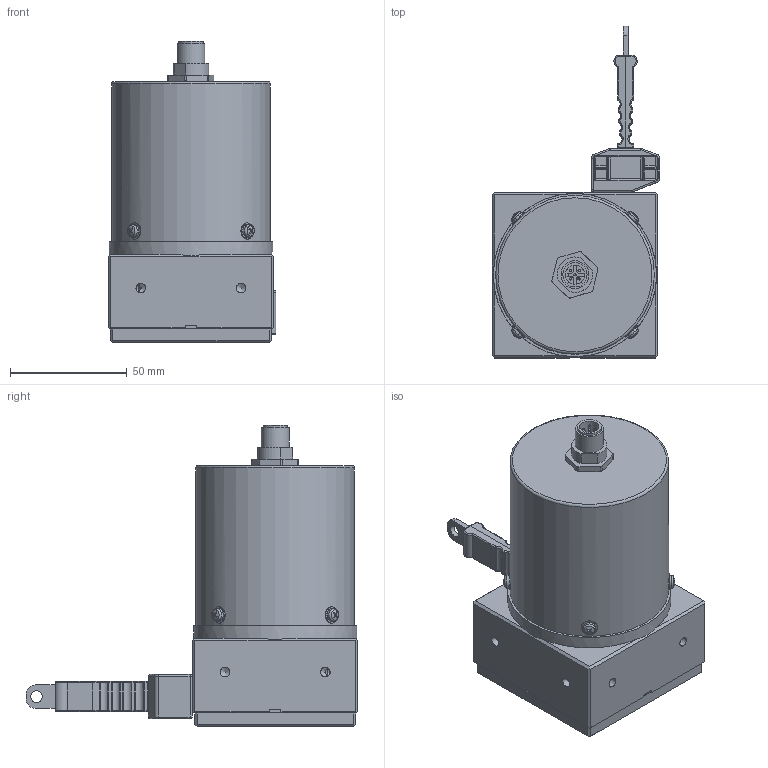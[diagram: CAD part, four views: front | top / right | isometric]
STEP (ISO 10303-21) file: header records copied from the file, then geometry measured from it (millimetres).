
FILE_DESCRIPTION((''),'2;1');
FILE_NAME('K:\Daten\Bauteil10.stp','2013-11-15T13:36:38',('kamp'),(''),'Autodesk Inventor 2008','Autodesk Inventor 2008','');
FILE_SCHEMA(('AUTOMOTIVE_DESIGN { 1 0 10303 214 1 1 1 1 }'));
Length unit declared in the file: millimetre
Products named in the file (1): Bauteil10
Bounding box: 71.9 x 142.3 x 129.4 mm (x, y, z)
Volume: 473349.9 mm3; surface area: 42750.6 mm2
Topology: 1 solids, 1 shells, 622 faces, 1494 edges, 892 vertices
Faces by surface type: plane 307, cylinder 134, bspline 123, sphere 43, torus 11, cone 4
Full cylindrical faces by diameter (mm): 1 x5, 7 x7, 8.3 x1, 10.4 x1, 12 x1, 68 x1, 70 x1
Entity records: 21060 total; most frequent: CARTESIAN_POINT 6894, ORIENTED_EDGE 2828, DIRECTION 2806, EDGE_CURVE 1414, AXIS2_PLACEMENT_3D 993, VERTEX_POINT 879, VECTOR 820, LINE 820
